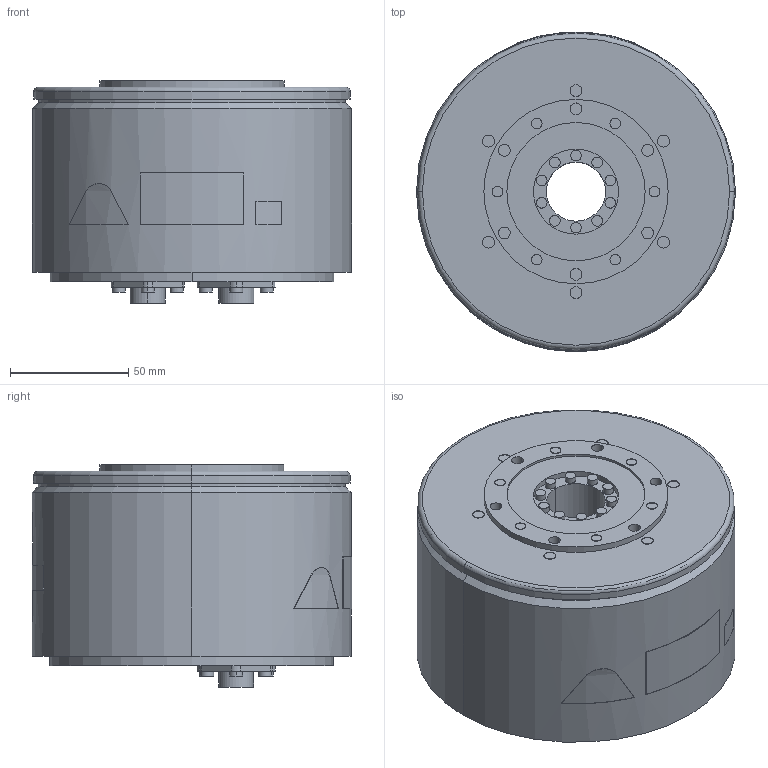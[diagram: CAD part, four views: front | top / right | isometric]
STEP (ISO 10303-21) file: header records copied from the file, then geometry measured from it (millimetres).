
FILE_DESCRIPTION (( 'STEP AP203' ), '1' );
FILE_NAME ('sgm7f_10b_a1_.STEP', '2016-07-24T06:26:55', ( '匠エンジニアリング山之内' ), ( 'TAKUMI-Engniaring' ), 'SwSTEP 2.0', 'SolidWorks 2006303', '' );
FILE_SCHEMA (( 'CONFIG_CONTROL_DESIGN' ));
Length unit declared in the file: millimetre
Products named in the file (1): sgm7f_10b_a1_
Bounding box: 135 x 135.21 x 94.1 mm (x, y, z)
Volume: 1123706 mm3; surface area: 90740.4 mm2
Topology: 1 solids, 1 shells, 326 faces, 709 edges, 470 vertices
Faces by surface type: cylinder 182, plane 138, cone 4, torus 2
Entity records: 9212 total; most frequent: DIRECTION 1743, CARTESIAN_POINT 1578, ORIENTED_EDGE 1418, AXIS2_PLACEMENT_3D 713, EDGE_CURVE 709, VERTEX_POINT 470, EDGE_LOOP 413, CIRCLE 386
